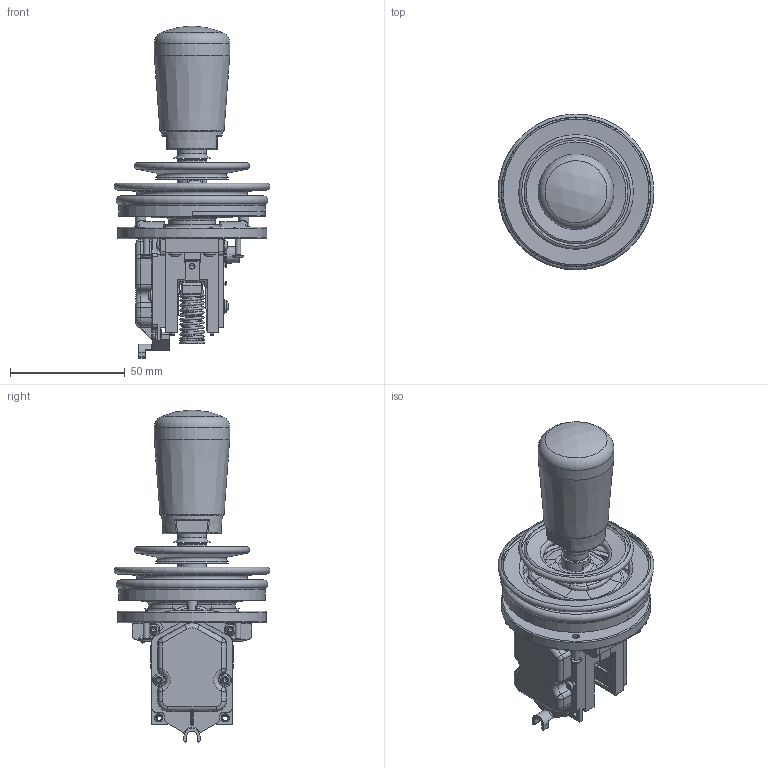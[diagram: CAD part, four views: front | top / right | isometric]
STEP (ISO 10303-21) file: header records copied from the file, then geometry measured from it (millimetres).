
FILE_DESCRIPTION(/* description */ (''),/* implementation_level */ '2;1');
FILE_NAME(/* name */ 'C:\Users\mk\Desktop\216-010.stp',/* time_stamp */ '2024-11-12T16:58:14+01:00',/* author */ ('mk'),/* organization */ (''),/* preprocessor_version */ 'ST-DEVELOPER v18.1',/* originating_system */ 'Autodesk Inventor 2021',/* authorisation */ '');
FILE_SCHEMA (('AUTOMOTIVE_DESIGN { 1 0 10303 214 3 1 1 }'));
Length unit declared in the file: millimetre
Products named in the file (1): 216-002_Shrinkwrap_1
Bounding box: 67.99 x 67.99 x 144.74 mm (x, y, z)
Volume: 99096.3 mm3; surface area: 84641.6 mm2
Topology: 1 solids, 1 shells, 2416 faces, 6421 edges, 4026 vertices
Faces by surface type: plane 1140, cylinder 720, cone 221, torus 205, bspline 106, sphere 24
Full cylindrical faces by diameter (mm): 1.1 x8, 1.3 x1, 1.4 x1, 1.5 x2, 1.567 x1, 1.575 x1, 1.9 x1, 2 x26, 2.04 x2, 2.075 x1, 2.4 x6, 2.5 x19, 2.55 x2, 2.6 x10, 2.7 x5, 2.75 x12, 2.775 x2, 2.8 x4, 3 x2, 3.15 x4, 3.242 x1, 3.5 x4, 4 x1, 4.15 x10, 4.3 x10, 4.5 x2, 4.7 x1, 5 x1, 5.01 x1, 5.17 x4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
Entity records: 84868 total; most frequent: CARTESIAN_POINT 21885, ORIENTED_EDGE 12812, DIRECTION 12746, EDGE_CURVE 6406, AXIS2_PLACEMENT_3D 4793, VERTEX_POINT 4026, LINE 3160, VECTOR 3160
